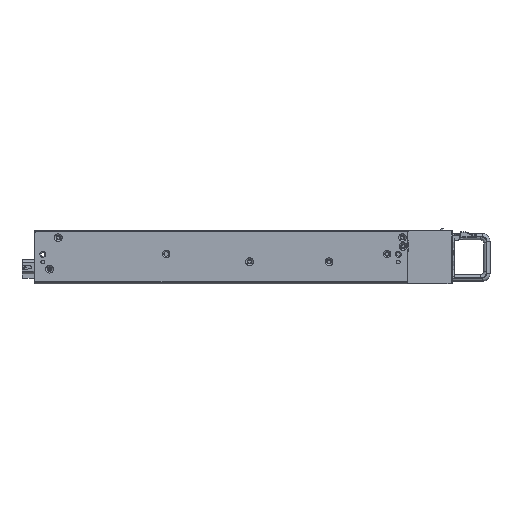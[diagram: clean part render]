
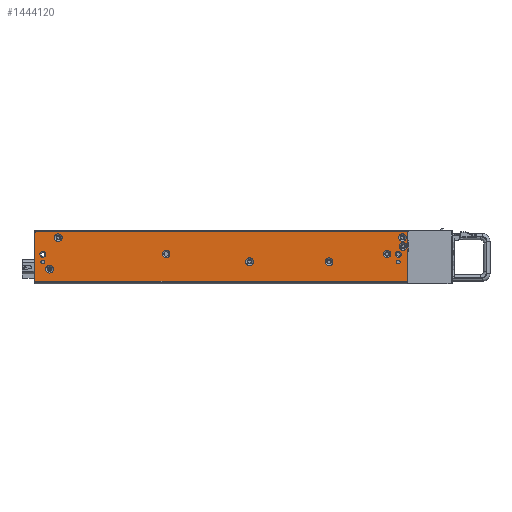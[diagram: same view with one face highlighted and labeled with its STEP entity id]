
A CAD part, left-side view. The second image highlights one B-rep face of the part: STEP entity #1444120.
In plain terms, the highlighted planar face has unit normal (-1, 0, 0).
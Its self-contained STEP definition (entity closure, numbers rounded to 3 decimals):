
#1432190=CARTESIAN_POINT('',(13.337,379.152,40.8)
);
#1432200=VERTEX_POINT('',#1432190);
#1432230=CARTESIAN_POINT('',(13.337,379.152,40.8)
);
#1432240=DIRECTION('',(0.,0.,-1.));
#1432250=VECTOR('',#1432240,1.);
#1432260=LINE('',#1432230,#1432250);
#1432270=CARTESIAN_POINT('',(13.337,379.152,
3.4));
#1432280=VERTEX_POINT('',#1432270);
#1432290=EDGE_CURVE('',#1432200,#1432280,#1432260,.T.);
#1441410=CARTESIAN_POINT('',(13.337,89.752,3.4))
;
#1441420=DIRECTION('',(0.,1.,0.));
#1441430=VECTOR('',#1441420,1.);
#1441440=LINE('',#1441410,#1441430);
#1441450=CARTESIAN_POINT('',(13.337,89.752,3.4))
;
#1441460=VERTEX_POINT('',#1441450);
#1441470=EDGE_CURVE('',#1441460,#1432280,#1441440,.T.);
#1441640=CARTESIAN_POINT('',(13.337,89.752,3.4))
;
#1441650=DIRECTION('',(0.,0.,1.));
#1441660=VECTOR('',#1441650,1.);
#1441670=LINE('',#1441640,#1441660);
#1441680=CARTESIAN_POINT('',(13.337,89.752,41.8))
;
#1441690=VERTEX_POINT('',#1441680);
#1441700=EDGE_CURVE('',#1441460,#1441690,#1441670,.T.);
#1442070=CARTESIAN_POINT('',(13.337,217.702,-49.598
));
#1442080=DIRECTION('',(-1.,0.,0.));
#1442090=DIRECTION('',(0.,-1.,0.));
#1442100=AXIS2_PLACEMENT_3D('',#1442070,#1442080,#1442090);
#1442110=PLANE('',#1442100);
#1442120=ORIENTED_EDGE('',*,*,#1432290,.T.);
#1442130=CARTESIAN_POINT('',(13.337,378.152,40.8)
);
#1442140=DIRECTION('',(-1.,0.,0.));
#1442150=DIRECTION('',(0.,0.,1.));
#1442160=AXIS2_PLACEMENT_3D('',#1442130,#1442140,#1442150);
#1442170=CIRCLE('',#1442160,1.);
#1442180=CARTESIAN_POINT('',(13.337,378.152,41.8)
);
#1442190=VERTEX_POINT('',#1442180);
#1442200=EDGE_CURVE('',#1442190,#1432200,#1442170,.T.);
#1442210=ORIENTED_EDGE('',*,*,#1442200,.T.);
#1442220=CARTESIAN_POINT('',(13.337,378.152,41.8)
);
#1442230=DIRECTION('',(0.,-1.,0.));
#1442240=VECTOR('',#1442230,1.);
#1442250=LINE('',#1442220,#1442240);
#1442260=EDGE_CURVE('',#1442190,#1441690,#1442250,.T.);
#1442270=ORIENTED_EDGE('',*,*,#1442260,.F.);
#1442280=ORIENTED_EDGE('',*,*,#1441700,.T.);
#1442290=ORIENTED_EDGE('',*,*,#1441470,.F.);
#1442300=EDGE_LOOP('',(#1442290,#1442280,#1442270,#1442210,#1442120));
#1442310=FACE_OUTER_BOUND('',#1442300,.T.);
#1442320=CARTESIAN_POINT('',(13.337,212.402,
18.6));
#1442330=DIRECTION('',(1.,0.,0.));
#1442340=DIRECTION('',(0.,-1.,0.));
#1442350=AXIS2_PLACEMENT_3D('',#1442320,#1442330,#1442340);
#1442360=CIRCLE('',#1442350,3.);
#1442370=CARTESIAN_POINT('',(13.337,209.402,
18.6));
#1442380=VERTEX_POINT('',#1442370);
#1442390=CARTESIAN_POINT('',(13.337,215.402,
18.6));
#1442400=VERTEX_POINT('',#1442390);
#1442410=EDGE_CURVE('',#1442380,#1442400,#1442360,.T.);
#1442420=ORIENTED_EDGE('',*,*,#1442410,.T.);
#1442430=EDGE_CURVE('',#1442400,#1442380,#1442360,.T.);
#1442440=ORIENTED_EDGE('',*,*,#1442430,.T.);
#1442450=EDGE_LOOP('',(#1442440,#1442420));
#1442460=FACE_BOUND('',#1442450,.T.);
#1442470=CARTESIAN_POINT('',(13.337,105.652,
24.6));
#1442480=DIRECTION('',(1.,0.,0.));
#1442490=DIRECTION('',(0.,-1.,0.));
#1442500=AXIS2_PLACEMENT_3D('',#1442470,#1442480,#1442490);
#1442510=CIRCLE('',#1442500,3.);
#1442520=CARTESIAN_POINT('',(13.337,108.652,
24.6));
#1442530=VERTEX_POINT('',#1442520);
#1442540=CARTESIAN_POINT('',(13.337,102.652,
24.6));
#1442550=VERTEX_POINT('',#1442540);
#1442560=EDGE_CURVE('',#1442530,#1442550,#1442510,.T.);
#1442570=ORIENTED_EDGE('',*,*,#1442560,.T.);
#1442580=EDGE_CURVE('',#1442550,#1442530,#1442510,.T.);
#1442590=ORIENTED_EDGE('',*,*,#1442580,.T.);
#1442600=EDGE_LOOP('',(#1442590,#1442570));
#1442610=FACE_BOUND('',#1442600,.T.);
#1442620=CARTESIAN_POINT('',(13.337,150.652,
18.6));
#1442630=DIRECTION('',(1.,0.,0.));
#1442640=DIRECTION('',(0.,-1.,0.));
#1442650=AXIS2_PLACEMENT_3D('',#1442620,#1442630,#1442640);
#1442660=CIRCLE('',#1442650,3.);
#1442670=CARTESIAN_POINT('',(13.337,153.652,
18.6));
#1442680=VERTEX_POINT('',#1442670);
#1442690=CARTESIAN_POINT('',(13.337,147.652,
18.6));
#1442700=VERTEX_POINT('',#1442690);
#1442710=EDGE_CURVE('',#1442680,#1442700,#1442660,.T.);
#1442720=ORIENTED_EDGE('',*,*,#1442710,.T.);
#1442730=EDGE_CURVE('',#1442700,#1442680,#1442660,.T.);
#1442740=ORIENTED_EDGE('',*,*,#1442730,.T.);
#1442750=EDGE_LOOP('',(#1442740,#1442720));
#1442760=FACE_BOUND('',#1442750,.T.);
#1442770=CARTESIAN_POINT('',(13.337,367.652,
12.85));
#1442780=DIRECTION('',(1.,0.,0.));
#1442790=DIRECTION('',(0.,-1.,0.));
#1442800=AXIS2_PLACEMENT_3D('',#1442770,#1442780,#1442790);
#1442810=CIRCLE('',#1442800,3.);
#1442820=CARTESIAN_POINT('',(13.337,364.652,
12.85));
#1442830=VERTEX_POINT('',#1442820);
#1442840=CARTESIAN_POINT('',(13.337,370.652,
12.85));
#1442850=VERTEX_POINT('',#1442840);
#1442860=EDGE_CURVE('',#1442830,#1442850,#1442810,.T.);
#1442870=ORIENTED_EDGE('',*,*,#1442860,.T.);
#1442880=EDGE_CURVE('',#1442850,#1442830,#1442810,.T.);
#1442890=ORIENTED_EDGE('',*,*,#1442880,.T.);
#1442900=EDGE_LOOP('',(#1442890,#1442870));
#1442910=FACE_BOUND('',#1442900,.T.);
#1442920=CARTESIAN_POINT('',(13.337,93.252,
30.5));
#1442930=DIRECTION('',(1.,0.,0.));
#1442940=DIRECTION('',(0.,1.,0.));
#1442950=AXIS2_PLACEMENT_3D('',#1442920,#1442930,#1442940);
#1442960=CIRCLE('',#1442950,3.);
#1442970=CARTESIAN_POINT('',(13.337,96.252,
30.5));
#1442980=VERTEX_POINT('',#1442970);
#1442990=CARTESIAN_POINT('',(13.337,90.252,
30.5));
#1443000=VERTEX_POINT('',#1442990);
#1443010=EDGE_CURVE('',#1442980,#1443000,#1442960,.T.);
#1443020=ORIENTED_EDGE('',*,*,#1443010,.T.);
#1443030=EDGE_CURVE('',#1443000,#1442980,#1442960,.T.);
#1443040=ORIENTED_EDGE('',*,*,#1443030,.T.);
#1443050=EDGE_LOOP('',(#1443040,#1443020));
#1443060=FACE_BOUND('',#1443050,.T.);
#1443070=CARTESIAN_POINT('',(13.337,277.152,
24.6));
#1443080=DIRECTION('',(1.,0.,0.));
#1443090=DIRECTION('',(0.,1.,0.));
#1443100=AXIS2_PLACEMENT_3D('',#1443070,#1443080,#1443090);
#1443110=CIRCLE('',#1443100,3.);
#1443120=CARTESIAN_POINT('',(13.337,280.152,
24.6));
#1443130=VERTEX_POINT('',#1443120);
#1443140=CARTESIAN_POINT('',(13.337,274.152,
24.6));
#1443150=VERTEX_POINT('',#1443140);
#1443160=EDGE_CURVE('',#1443130,#1443150,#1443110,.T.);
#1443170=ORIENTED_EDGE('',*,*,#1443160,.T.);
#1443180=EDGE_CURVE('',#1443150,#1443130,#1443110,.T.);
#1443190=ORIENTED_EDGE('',*,*,#1443180,.T.);
#1443200=EDGE_LOOP('',(#1443190,#1443170));
#1443210=FACE_BOUND('',#1443200,.T.);
#1443220=CARTESIAN_POINT('',(13.337,93.752,
37.3));
#1443230=DIRECTION('',(1.,0.,0.));
#1443240=DIRECTION('',(0.,-1.,0.));
#1443250=AXIS2_PLACEMENT_3D('',#1443220,#1443230,#1443240);
#1443260=CIRCLE('',#1443250,3.);
#1443270=CARTESIAN_POINT('',(13.337,90.752,
37.3));
#1443280=VERTEX_POINT('',#1443270);
#1443290=CARTESIAN_POINT('',(13.337,96.752,
37.3));
#1443300=VERTEX_POINT('',#1443290);
#1443310=EDGE_CURVE('',#1443280,#1443300,#1443260,.T.);
#1443320=ORIENTED_EDGE('',*,*,#1443310,.T.);
#1443330=EDGE_CURVE('',#1443300,#1443280,#1443260,.T.);
#1443340=ORIENTED_EDGE('',*,*,#1443330,.T.);
#1443350=EDGE_LOOP('',(#1443340,#1443320));
#1443360=FACE_BOUND('',#1443350,.T.);
#1443370=CARTESIAN_POINT('',(13.337,360.852,
37.3));
#1443380=DIRECTION('',(1.,0.,0.));
#1443390=DIRECTION('',(0.,1.,0.));
#1443400=AXIS2_PLACEMENT_3D('',#1443370,#1443380,#1443390);
#1443410=CIRCLE('',#1443400,3.);
#1443420=CARTESIAN_POINT('',(13.337,357.852,
37.3));
#1443430=VERTEX_POINT('',#1443420);
#1443440=CARTESIAN_POINT('',(13.337,363.852,
37.3));
#1443450=VERTEX_POINT('',#1443440);
#1443460=EDGE_CURVE('',#1443430,#1443450,#1443410,.T.);
#1443470=ORIENTED_EDGE('',*,*,#1443460,.T.);
#1443480=EDGE_CURVE('',#1443450,#1443430,#1443410,.T.);
#1443490=ORIENTED_EDGE('',*,*,#1443480,.T.);
#1443500=EDGE_LOOP('',(#1443490,#1443470));
#1443510=FACE_BOUND('',#1443500,.T.);
#1443520=CARTESIAN_POINT('',(13.337,372.902,18.3
));
#1443530=DIRECTION('',(-1.,0.,0.));
#1443540=DIRECTION('',(0.,-1.,0.));
#1443550=AXIS2_PLACEMENT_3D('',#1443520,#1443530,#1443540);
#1443560=CIRCLE('',#1443550,1.4);
#1443570=CARTESIAN_POINT('',(13.337,371.502,18.3
));
#1443580=VERTEX_POINT('',#1443570);
#1443590=CARTESIAN_POINT('',(13.337,374.302,18.3
));
#1443600=VERTEX_POINT('',#1443590);
#1443610=EDGE_CURVE('',#1443580,#1443600,#1443560,.T.);
#1443620=ORIENTED_EDGE('',*,*,#1443610,.F.);
#1443630=EDGE_CURVE('',#1443600,#1443580,#1443560,.T.);
#1443640=ORIENTED_EDGE('',*,*,#1443630,.F.);
#1443650=EDGE_LOOP('',(#1443640,#1443620));
#1443660=FACE_BOUND('',#1443650,.T.);
#1443670=CARTESIAN_POINT('',(13.337,96.902,18.3)
);
#1443680=DIRECTION('',(-1.,0.,0.));
#1443690=DIRECTION('',(0.,-1.,0.));
#1443700=AXIS2_PLACEMENT_3D('',#1443670,#1443680,#1443690);
#1443710=CIRCLE('',#1443700,1.4);
#1443720=CARTESIAN_POINT('',(13.337,95.502,18.3)
);
#1443730=VERTEX_POINT('',#1443720);
#1443740=CARTESIAN_POINT('',(13.337,98.302,18.3)
);
#1443750=VERTEX_POINT('',#1443740);
#1443760=EDGE_CURVE('',#1443730,#1443750,#1443710,.T.);
#1443770=ORIENTED_EDGE('',*,*,#1443760,.F.);
#1443780=EDGE_CURVE('',#1443750,#1443730,#1443710,.T.);
#1443790=ORIENTED_EDGE('',*,*,#1443780,.F.);
#1443800=EDGE_LOOP('',(#1443790,#1443770));
#1443810=FACE_BOUND('',#1443800,.T.);
#1443820=CARTESIAN_POINT('',(13.337,96.902,24.3)
);
#1443830=DIRECTION('',(-1.,0.,0.));
#1443840=DIRECTION('',(0.,0.,1.));
#1443850=AXIS2_PLACEMENT_3D('',#1443820,#1443830,#1443840);
#1443860=CIRCLE('',#1443850,2.27);
#1443870=CARTESIAN_POINT('',(13.337,96.902,26.57)
);
#1443880=VERTEX_POINT('',#1443870);
#1443890=CARTESIAN_POINT('',(13.337,96.902,22.03)
);
#1443900=VERTEX_POINT('',#1443890);
#1443910=EDGE_CURVE('',#1443880,#1443900,#1443860,.T.);
#1443920=ORIENTED_EDGE('',*,*,#1443910,.F.);
#1443930=EDGE_CURVE('',#1443900,#1443880,#1443860,.T.);
#1443940=ORIENTED_EDGE('',*,*,#1443930,.F.);
#1443950=EDGE_LOOP('',(#1443940,#1443920));
#1443960=FACE_BOUND('',#1443950,.T.);
#1443970=CARTESIAN_POINT('',(13.337,372.902,24.3
));
#1443980=DIRECTION('',(-1.,0.,0.));
#1443990=DIRECTION('',(0.,0.,1.));
#1444000=AXIS2_PLACEMENT_3D('',#1443970,#1443980,#1443990);
#1444010=CIRCLE('',#1444000,2.27);
#1444020=CARTESIAN_POINT('',(13.337,372.902,26.57
));
#1444030=VERTEX_POINT('',#1444020);
#1444040=CARTESIAN_POINT('',(13.337,372.902,22.03
));
#1444050=VERTEX_POINT('',#1444040);
#1444060=EDGE_CURVE('',#1444030,#1444050,#1444010,.T.);
#1444070=ORIENTED_EDGE('',*,*,#1444060,.F.);
#1444080=EDGE_CURVE('',#1444050,#1444030,#1444010,.T.);
#1444090=ORIENTED_EDGE('',*,*,#1444080,.F.);
#1444100=EDGE_LOOP('',(#1444090,#1444070));
#1444110=FACE_BOUND('',#1444100,.T.);
#1444120=ADVANCED_FACE('',(#1442310,#1442460,#1442610,#1442760,#1442910,
#1443060,#1443210,#1443360,#1443510,#1443660,#1443810,#1443960,#1444110)
,#1442110,.T.);
